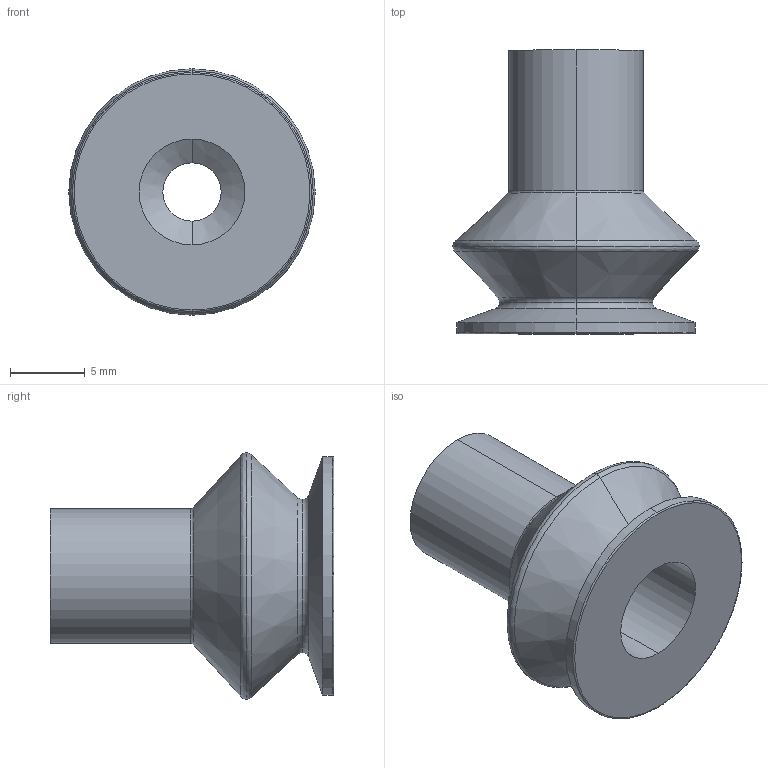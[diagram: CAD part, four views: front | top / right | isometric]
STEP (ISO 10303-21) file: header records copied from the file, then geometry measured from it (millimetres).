
FILE_DESCRIPTION (( 'STEP AP203' ), '1' );
FILE_NAME ('23.016.015.2.STEP', '2015-05-21T13:00:57', ( '' ), ( '' ), 'SwSTEP 2.0', 'SolidWorks 2010', '' );
FILE_SCHEMA (( 'CONFIG_CONTROL_DESIGN' ));
Length unit declared in the file: millimetre
Products named in the file (1): 23.016.015.2
Bounding box: 16.5 x 19 x 16.5 mm (x, y, z)
Volume: 1469.6 mm3; surface area: 1425.9 mm2
Topology: 1 solids, 1 shells, 35 faces, 74 edges, 42 vertices
Faces by surface type: cylinder 10, cone 10, bspline 6, torus 6, plane 3
Entity records: 1091 total; most frequent: CARTESIAN_POINT 248, DIRECTION 184, ORIENTED_EDGE 148, AXIS2_PLACEMENT_3D 82, EDGE_CURVE 74, CIRCLE 52, VERTEX_POINT 42, EDGE_LOOP 38
